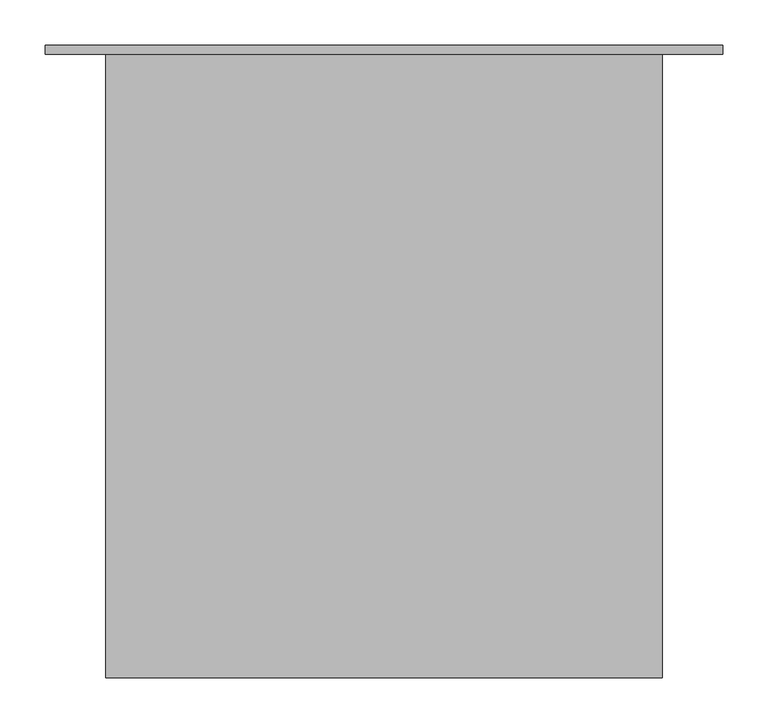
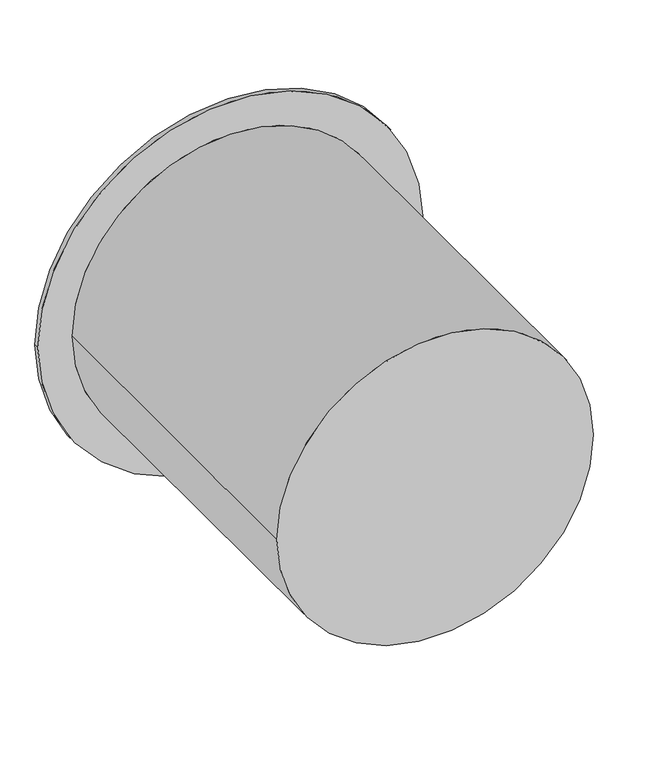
"""IFC4 building model written with IfcOpenShell, lengths in millimetres: proxy geometry, SU.600mmDia.ManwayRiser.700-10."""

import ifcopenshell
import ifcopenshell.guid

model = None  # the IFC model being written
_history = None  # IfcOwnerHistory: only IFC2X3 demands one
_inside = {}  # id of a spatial element -> (the spatial element, [elements in it])
_under = {}  # id of a project, library or spatial element -> (it, [spatial elements below it])
_declared = {}  # id of a project -> (the project, [libraries it declares])
_typed = {}  # id of a type object -> (the type object, [elements of that type])
_made_of = {}  # id of a material, layer set ... -> (it, [elements and type objects made of it])


def new_model(schema):
    """Start an empty IFC model of exactly this schema.

    Asked for "IFC4X3", IfcOpenShell would pick the latest addendum, in which some entities
    have other attributes; the version numbers below select the first issue.
    IFC2X3 requires an IfcOwnerHistory on every rooted entity: one is made here for all.
    """
    global model, _history
    if schema == "IFC4X3":
        model = ifcopenshell.file(schema_version=(4, 3, 0, 0))
    else:
        model = ifcopenshell.file(schema=schema)
    _inside.clear()
    _under.clear()
    _declared.clear()
    _typed.clear()
    _made_of.clear()
    _history = None
    if model.schema == "IFC2X3":
        org = make("IfcOrganization", Name="unknown")
        user = make(
            "IfcPersonAndOrganization",
            ThePerson=make("IfcPerson", FamilyName="unknown"),
            TheOrganization=org,
        )
        app = make(
            "IfcApplication",
            ApplicationDeveloper=org,
            Version="unknown",
            ApplicationFullName="unknown",
            ApplicationIdentifier="unknown",
        )
        _history = make(
            "IfcOwnerHistory",
            OwningUser=user,
            OwningApplication=app,
            ChangeAction="ADDED",
            CreationDate=0,
        )
    return model


def make(cls, **values):
    """One entity of the class cls with the attributes given. An attribute that is None is left unset."""
    return model.create_entity(
        cls, **{name: value for name, value in values.items() if value is not None}
    )


def rooted(cls, **values):
    """An entity with a GlobalId (a new one), such as an element, a storey or a relation."""
    return make(cls, GlobalId=ifcopenshell.guid.new(), OwnerHistory=_history, **values)


def si_unit(unit_type, name, prefix=None):
    """IfcSIUnit, for example si_unit("LENGTHUNIT", "METRE", prefix="MILLI")."""
    return make("IfcSIUnit", UnitType=unit_type, Prefix=prefix, Name=name)


def assignment(units):
    """IfcUnitAssignment: the units of a project."""
    return None if units is None else make("IfcUnitAssignment", Units=units)


def point(xyz):
    """IfcCartesianPoint."""
    return None if xyz is None else make("IfcCartesianPoint", Coordinates=xyz)


def direction(xyz):
    """IfcDirection."""
    return None if xyz is None else make("IfcDirection", DirectionRatios=xyz)


def frame(location, z_axis=None, x_axis=None):
    """IfcAxis2Placement3D, a coordinate frame: its origin and axes. An axis left out is left unset."""
    return make(
        "IfcAxis2Placement3D",
        Location=point(location),
        Axis=direction(z_axis),
        RefDirection=direction(x_axis),
    )


def origin():
    """The frame at (0, 0, 0) with its axes left unset."""
    return frame((0.0, 0.0, 0.0))


def place(relative_to, where):
    """IfcLocalPlacement: puts the frame where relative to a parent placement (None: the world)."""
    return make(
        "IfcLocalPlacement", PlacementRelTo=relative_to, RelativePlacement=where
    )


def context(
    kind, dimensions, precision=None, world=None, true_north=None, identifier=None
):
    """IfcGeometricRepresentationContext, for example the 3D "Model" context."""
    return make(
        "IfcGeometricRepresentationContext",
        ContextIdentifier=identifier,
        ContextType=kind,
        CoordinateSpaceDimension=dimensions,
        Precision=precision,
        WorldCoordinateSystem=world,
        TrueNorth=true_north,
    )


def project(units=None, contexts=None):
    """IfcProject with its units and contexts."""
    return rooted(
        "IfcProject",
        Name="project",
        RepresentationContexts=contexts,
        UnitsInContext=assignment(units),
    )


def spatial(cls, under=None, at=None, **own):
    """A site, building, storey or space (cls), placed at a placement, below another one or the project."""
    s = rooted(cls, ObjectPlacement=at, **own)
    if under is not None:
        _under.setdefault(under.id(), (under, []))[1].append(s)
    return s


def circle_curve(where, radius):
    """IfcCircle in the frame where."""
    return make("IfcCircle", Position=where, Radius=radius)


def shape(context_of_items, identifier, shape_type, items):
    """IfcShapeRepresentation: the items that make up one representation, for example the "Body"."""
    return make(
        "IfcShapeRepresentation",
        ContextOfItems=context_of_items,
        RepresentationIdentifier=identifier,
        RepresentationType=shape_type,
        Items=items,
    )


def source(mapping_origin, context_of_items, identifier, shape_type, items):
    """IfcRepresentationMap: a shape defined once, which mapped items show again and again."""
    return make(
        "IfcRepresentationMap",
        MappingOrigin=mapping_origin,
        MappedRepresentation=shape(context_of_items, identifier, shape_type, items),
    )


def transform(
    local_origin,
    x_axis=None,
    y_axis=None,
    z_axis=None,
    scale=None,
    scale2=None,
    scale3=None,
    uniform=True,
):
    """IfcCartesianTransformationOperator3D, or its non-uniform kind. x_axis, y_axis, z_axis: its Axis1, 2, 3."""
    if uniform:
        return make(
            "IfcCartesianTransformationOperator3D",
            Axis1=direction(x_axis),
            Axis2=direction(y_axis),
            LocalOrigin=point(local_origin),
            Scale=scale,
            Axis3=direction(z_axis),
        )
    return make(
        "IfcCartesianTransformationOperator3DnonUniform",
        Axis1=direction(x_axis),
        Axis2=direction(y_axis),
        LocalOrigin=point(local_origin),
        Scale=scale,
        Axis3=direction(z_axis),
        Scale2=scale2,
        Scale3=scale3,
    )


def mapped(mapping_source, mapping_target):
    """IfcMappedItem: shows the shape of a source again, moved by a transform."""
    return make(
        "IfcMappedItem", MappingSource=mapping_source, MappingTarget=mapping_target
    )


def made_of(thing, what):
    """Note that an element or type object is made of a material, layer set ...; save() writes the relation."""
    if what is not None:
        _made_of.setdefault(what.id(), (what, []))[1].append(thing)
    return thing


def element(
    cls,
    number,
    at=None,
    inside=None,
    cuts=None,
    type_object=None,
    material=None,
    context=None,
    identifier="Body",
    shape_type=None,
    held_by="IfcProductDefinitionShape",
    body=None,
    shapes=None,
    **own,
):
    """One element of the class cls, such as IfcWall. Its Tag is "e" and its number.

    at: its placement. inside: the storey or other place that contains it. cuts: it is an
    opening in that element (IfcRelVoidsElement). A single representation is given by context,
    identifier, shape_type and body (its items); several are given by shapes. held_by: the class
    of the entity that holds the representations. save() writes the other relations.
    """
    e = rooted(cls, Tag="e%d" % number, ObjectPlacement=at, **own)
    if body is not None:
        shapes = [shape(context, identifier, shape_type, body)]
    if shapes is not None:
        e.Representation = make(held_by, Representations=shapes)
    if inside is not None:
        _inside.setdefault(inside.id(), (inside, []))[1].append(e)
    if cuts is not None:
        rooted(
            "IfcRelVoidsElement", RelatingBuildingElement=cuts, RelatedOpeningElement=e
        )
    if type_object is not None:
        _typed.setdefault(type_object.id(), (type_object, []))[1].append(e)
    return made_of(e, material)


def aggregate(whole, parts):
    """IfcRelAggregates: a whole, such as a stair, and the parts it consists of."""
    return rooted("IfcRelAggregates", RelatingObject=whole, RelatedObjects=parts)


def save(model, path):
    """Write the relations noted so far, then the file.

    IfcRelAggregates (storeys below a building ...), IfcRelContainedInSpatialStructure (elements
    in a storey), IfcRelDefinesByType, IfcRelAssociatesMaterial and IfcRelDeclares: one each for
    every whole, place, type object, material and project.
    """
    for whole, parts in _under.values():
        aggregate(whole, parts)
    for where, things in _inside.values():
        rooted(
            "IfcRelContainedInSpatialStructure",
            RelatedElements=things,
            RelatingStructure=where,
        )
    for kind, things in _typed.values():
        rooted("IfcRelDefinesByType", RelatedObjects=things, RelatingType=kind)
    for what, things in _made_of.values():
        rooted("IfcRelAssociatesMaterial", RelatedObjects=things, RelatingMaterial=what)
    for by, libraries in _declared.values():
        rooted("IfcRelDeclares", RelatingContext=by, RelatedDefinitions=libraries)
    model.write(path)


def plane_surface(at):
    """IfcPlane: the flat surface through the origin of the frame at, square to its z axis."""
    return make("IfcPlane", Position=at)


def cylinder_surface(at, radius):
    """IfcCylindricalSurface: all points at the distance radius from the z axis of the frame at."""
    return make("IfcCylindricalSurface", Position=at, Radius=radius)


def advanced_brep(points, edges, surfaces, faces):
    """IfcAdvancedBrep: a solid bounded by faces that lie on surfaces and meet in shared edges.

    An edge is (start, end): straight between two places in points (the first is 0);
    or (start, end, curve); or (start, end, curve, False) where it runs against its curve.
    A face is (place in surfaces, loops), or (place, loops, False) where it looks against
    its surface's normal. A loop lists edges by number (the first is 1), with a minus sign
    where the edge is run from its end to its start. The first loop is the outer one.
    """
    corners = [point(p) for p in points]
    vertices = [make("IfcVertexPoint", VertexGeometry=c) for c in corners]
    made = []
    for start, end, *more in edges:
        made.append(
            make(
                "IfcEdgeCurve",
                EdgeStart=vertices[start],
                EdgeEnd=vertices[end],
                EdgeGeometry=more[0] if more else make("IfcPolyline", Points=[corners[start], corners[end]]),
                SameSense=more[1] if len(more) > 1 else True,
            )
        )
    hull = []
    for where, loops, *sense in faces:
        bounds = []
        for j, loop in enumerate(loops):
            ring = [make("IfcOrientedEdge", EdgeElement=made[abs(k) - 1], Orientation=k > 0) for k in loop]
            bounds.append(
                make(
                    "IfcFaceOuterBound" if j == 0 else "IfcFaceBound",
                    Bound=make("IfcEdgeLoop", EdgeList=ring),
                    Orientation=True,
                )
            )
        hull.append(make("IfcAdvancedFace", Bounds=bounds, FaceSurface=surfaces[where], SameSense=sense[0] if sense else True))
    return make("IfcAdvancedBrep", Outer=make("IfcClosedShell", CfsFaces=hull))


def generic_models_ed58a86c(model_context):
    return source(origin(), model_context, "Body", "AdvancedBrep", [
        advanced_brep(
        [(-375.0, 690.0, 0.0), (-375.0, 700.0, 0.0), (375.0, 700.0, 0.0), (375.0, 690.0, 0.0), (-308.0, 0.0, 0.0), (-308.0, 690.0, 0.0), (308.0, 690.0, 0.0), (308.0, 0.0, 0.0)],
        [
            (0, 1),
            (1, 2, circle_curve(frame((0.0, 700.0, 0.0), z_axis=(0.0, -1.0, 0.0), x_axis=(-1.0, 0.0, 0.0)), 375.0)),
            (2, 3),
            (3, 0, circle_curve(frame((0.0, 690.0, 0.0), z_axis=(0.0, 1.0, 0.0), x_axis=(-1.0, 0.0, 0.0)), 375.0)),
            (4, 5),
            (5, 6, circle_curve(frame((0.0, 690.0, 0.0), z_axis=(0.0, -1.0, 0.0), x_axis=(-1.0, 0.0, 0.0)), 308.0)),
            (6, 7),
            (7, 4, circle_curve(frame((0.0, 0.0, 0.0), z_axis=(0.0, 1.0, 0.0), x_axis=(-1.0, 0.0, 0.0)), 308.0)),
            (1, 2, circle_curve(frame((0.0, 700.0, 0.0), z_axis=(0.0, 1.0, 0.0), x_axis=(-1.0, 0.0, 0.0)), 375.0)),
            (7, 4, circle_curve(frame((0.0, 0.0, 0.0), z_axis=(0.0, -1.0, 0.0), x_axis=(-1.0, 0.0, 0.0)), 308.0)),
            (6, 5, circle_curve(frame((0.0, 690.0, 0.0), z_axis=(0.0, -1.0, 0.0), x_axis=(-1.0, 0.0, 0.0)), 308.0)),
            (3, 0, circle_curve(frame((0.0, 690.0, 0.0), z_axis=(0.0, -1.0, 0.0), x_axis=(-1.0, 0.0, 0.0)), 375.0)),
        ],
        [
            cylinder_surface(frame((0.0, 695.0, 0.0), z_axis=(0.0, 1.0, 0.0), x_axis=(-1.0, 0.0, 0.0)), 375.0),
            cylinder_surface(frame((0.0, 345.0, 0.0), z_axis=(0.0, 1.0, 0.0), x_axis=(-1.0, 0.0, 0.0)), 308.0),
            plane_surface(frame((-300.0, 700.0, 0.0), z_axis=(0.0, 1.0, 0.0), x_axis=(0.0, 0.0, 1.0))),
            plane_surface(frame((-308.0, 0.0, 0.0), z_axis=(0.0, -1.0, 0.0), x_axis=(0.0, 0.0, -1.0))),
            plane_surface(frame((-375.0, 690.0, 0.0), z_axis=(0.0, -1.0, 0.0), x_axis=(0.0, 0.0, -1.0))),
        ],
        [
            (0, [[1, 2, 3, 4]]),
            (1, [[5, 6, 7, 8]]),
            (2, [[9, -2]]),
            (3, [[10, -8]]),
            (1, [[-5, -10, -7, 11]]),
            (4, [[12, -4], [-11, -6]]),
            (0, [[-1, -12, -3, -9]]),
        ],
    ),
    ])


if __name__ == "__main__":
    model = new_model("IFC4")
    model_context = context("Model", 3, world=origin())
    ifc_project = project(units=[si_unit("LENGTHUNIT", "METRE", prefix="MILLI")], contexts=[model_context])
    site = spatial("IfcSite", under=ifc_project)
    building = spatial("IfcBuilding", under=site)
    placement = place(None, origin())
    generic_models_shape = generic_models_ed58a86c(model_context)
    element("IfcBuildingElementProxy", 1, Name="SU.600mmDia.ManwayRiser.700-10", ObjectType="SU.600mmDia.ManwayRiser.700-10", at=placement, inside=building, context=model_context, shape_type="MappedRepresentation", body=[
        mapped(generic_models_shape, transform((0.0, 0.0, 0.0), x_axis=(1.0, 0.0, 0.0), y_axis=(0.0, 1.0, 0.0), z_axis=(0.0, 0.0, 1.0))),
    ])
    save(model, "model.ifc")
